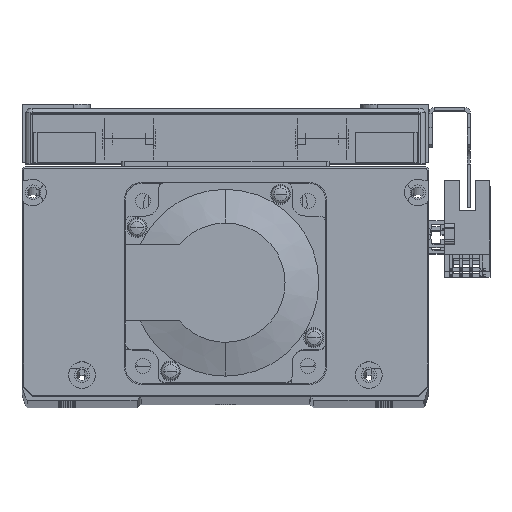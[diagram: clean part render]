
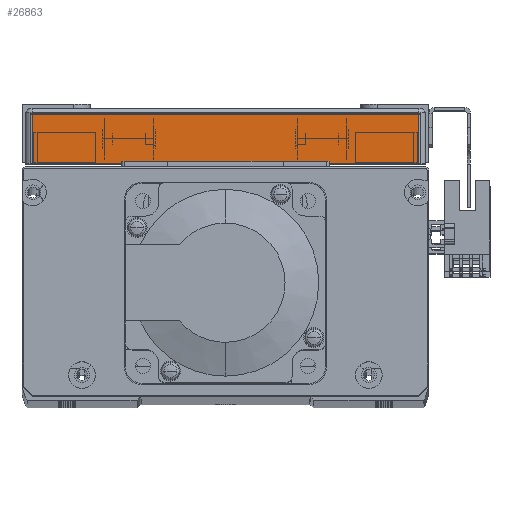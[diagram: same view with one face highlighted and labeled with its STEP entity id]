
A CAD part, top view. The second image highlights one B-rep face of the part: STEP entity #26863.
In plain terms, the highlighted planar face has unit normal (0, 0, 1) as drawn and (1, 0, 0) by its records, which use the part's own axes.
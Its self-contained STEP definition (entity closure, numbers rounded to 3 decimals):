
#4570 = VERTEX_POINT ( 'NONE', #60182 ) ;
#4574 = VERTEX_POINT ( 'NONE', #60266 ) ;
#4590 = VERTEX_POINT ( 'NONE', #60296 ) ;
#4617 = VERTEX_POINT ( 'NONE', #60277 ) ;
#8253 = EDGE_LOOP ( 'NONE', ( #45399, #45410, #45476, #45513 ) ) ;
#10790 = DIRECTION ( 'NONE',  ( -1., 0., 0. ) ) ;
#10814 = PLANE ( 'NONE',  #11181 ) ;
#10822 = CARTESIAN_POINT ( 'NONE',  ( 85.5, 16.5, -60. ) ) ;
#10834 = DIRECTION ( 'NONE',  ( 0., 0., 1. ) ) ;
#11181 = AXIS2_PLACEMENT_3D ( 'NONE', #10822, #10790, #10834 ) ;
#12885 = FACE_OUTER_BOUND ( 'NONE', #8253, .T. ) ;
#26863 = ADVANCED_FACE ( 'NONE', ( #12885 ), #10814, .F. ) ;
#37150 = VECTOR ( 'NONE', #46094, 1000. ) ;
#37174 = LINE ( 'NONE', #46123, #37150 ) ;
#37284 = VECTOR ( 'NONE', #46179, 1000. ) ;
#37298 = LINE ( 'NONE', #46196, #37284 ) ;
#37388 = LINE ( 'NONE', #46315, #37472 ) ;
#37418 = LINE ( 'NONE', #46298, #37466 ) ;
#37466 = VECTOR ( 'NONE', #46324, 1000. ) ;
#37472 = VECTOR ( 'NONE', #46307, 1000. ) ;
#45399 = ORIENTED_EDGE ( 'NONE', *, *, #49884, .T. ) ;
#45410 = ORIENTED_EDGE ( 'NONE', *, *, #49839, .T. ) ;
#45476 = ORIENTED_EDGE ( 'NONE', *, *, #49891, .T. ) ;
#45513 = ORIENTED_EDGE ( 'NONE', *, *, #49796, .T. ) ;
#46094 = DIRECTION ( 'NONE',  ( 0., 0., -1. ) ) ;
#46123 = CARTESIAN_POINT ( 'NONE',  ( 85.5, 0., -60. ) ) ;
#46179 = DIRECTION ( 'NONE',  ( 0., 0., 1. ) ) ;
#46196 = CARTESIAN_POINT ( 'NONE',  ( 85.5, 15.5, 58. ) ) ;
#46298 = CARTESIAN_POINT ( 'NONE',  ( 85.5, 16.5, 58. ) ) ;
#46307 = DIRECTION ( 'NONE',  ( 0., 1., 0. ) ) ;
#46315 = CARTESIAN_POINT ( 'NONE',  ( 85.5, 16.5, -58. ) ) ;
#46324 = DIRECTION ( 'NONE',  ( 0., -1., 0. ) ) ;
#49796 = EDGE_CURVE ( 'NONE', #4617, #4590, #37174, .T. ) ;
#49839 = EDGE_CURVE ( 'NONE', #4574, #4570, #37298, .T. ) ;
#49884 = EDGE_CURVE ( 'NONE', #4590, #4574, #37388, .T. ) ;
#49891 = EDGE_CURVE ( 'NONE', #4570, #4617, #37418, .T. ) ;
#60182 = CARTESIAN_POINT ( 'NONE',  ( 85.5, 15.5, 58. ) ) ;
#60266 = CARTESIAN_POINT ( 'NONE',  ( 85.5, 15.5, -58. ) ) ;
#60277 = CARTESIAN_POINT ( 'NONE',  ( 85.5, 0., 58. ) ) ;
#60296 = CARTESIAN_POINT ( 'NONE',  ( 85.5, 0., -58. ) ) ;
